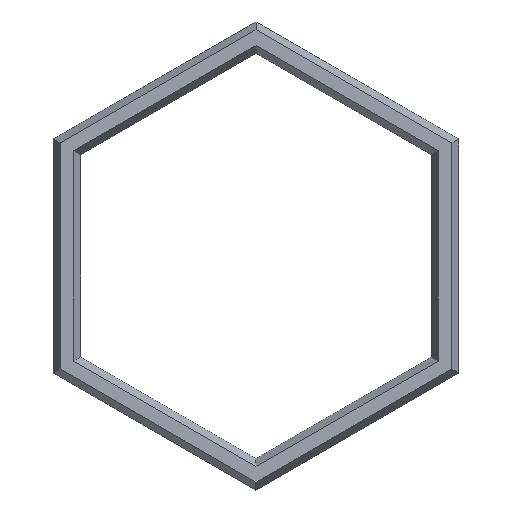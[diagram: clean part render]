
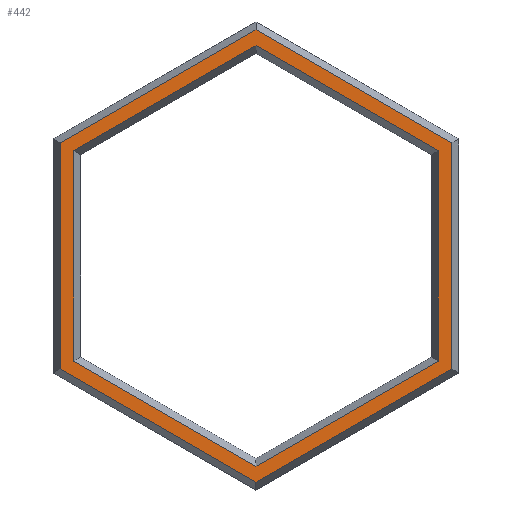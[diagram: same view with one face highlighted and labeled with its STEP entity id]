
A CAD part, top view. The second image highlights one B-rep face of the part: STEP entity #442.
In plain terms, the highlighted planar face has unit normal (0, 0, 1).
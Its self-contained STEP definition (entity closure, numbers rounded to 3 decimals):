
#15=FACE_BOUND('',#53,.T.);
#26=FACE_OUTER_BOUND('',#52,.T.);
#52=EDGE_LOOP('',(#323,#324,#325,#326,#327,#328));
#53=EDGE_LOOP('',(#329,#330,#331,#332,#333,#334));
#71=LINE('',#617,#131);
#75=LINE('',#625,#135);
#78=LINE('',#631,#138);
#81=LINE('',#637,#141);
#85=LINE('',#645,#145);
#88=LINE('',#649,#148);
#96=LINE('',#667,#156);
#97=LINE('',#669,#157);
#98=LINE('',#671,#158);
#99=LINE('',#673,#159);
#100=LINE('',#675,#160);
#101=LINE('',#676,#161);
#131=VECTOR('',#503,10.);
#135=VECTOR('',#509,10.);
#138=VECTOR('',#514,10.);
#141=VECTOR('',#519,10.);
#145=VECTOR('',#525,10.);
#148=VECTOR('',#530,10.);
#156=VECTOR('',#546,10.);
#157=VECTOR('',#547,10.);
#158=VECTOR('',#548,10.);
#159=VECTOR('',#549,10.);
#160=VECTOR('',#550,10.);
#161=VECTOR('',#551,10.);
#191=VERTEX_POINT('',#615);
#192=VERTEX_POINT('',#616);
#195=VERTEX_POINT('',#624);
#197=VERTEX_POINT('',#630);
#199=VERTEX_POINT('',#636);
#202=VERTEX_POINT('',#644);
#207=VERTEX_POINT('',#665);
#208=VERTEX_POINT('',#666);
#209=VERTEX_POINT('',#668);
#210=VERTEX_POINT('',#670);
#211=VERTEX_POINT('',#672);
#212=VERTEX_POINT('',#674);
#227=EDGE_CURVE('',#191,#192,#71,.T.);
#231=EDGE_CURVE('',#192,#195,#75,.T.);
#234=EDGE_CURVE('',#195,#197,#78,.T.);
#237=EDGE_CURVE('',#197,#199,#81,.T.);
#241=EDGE_CURVE('',#199,#202,#85,.T.);
#244=EDGE_CURVE('',#202,#191,#88,.T.);
#252=EDGE_CURVE('',#207,#208,#96,.T.);
#253=EDGE_CURVE('',#209,#207,#97,.T.);
#254=EDGE_CURVE('',#210,#209,#98,.T.);
#255=EDGE_CURVE('',#211,#210,#99,.T.);
#256=EDGE_CURVE('',#212,#211,#100,.T.);
#257=EDGE_CURVE('',#208,#212,#101,.T.);
#323=ORIENTED_EDGE('',*,*,#252,.F.);
#324=ORIENTED_EDGE('',*,*,#253,.F.);
#325=ORIENTED_EDGE('',*,*,#254,.F.);
#326=ORIENTED_EDGE('',*,*,#255,.F.);
#327=ORIENTED_EDGE('',*,*,#256,.F.);
#328=ORIENTED_EDGE('',*,*,#257,.F.);
#329=ORIENTED_EDGE('',*,*,#227,.F.);
#330=ORIENTED_EDGE('',*,*,#244,.F.);
#331=ORIENTED_EDGE('',*,*,#241,.F.);
#332=ORIENTED_EDGE('',*,*,#237,.F.);
#333=ORIENTED_EDGE('',*,*,#234,.F.);
#334=ORIENTED_EDGE('',*,*,#231,.F.);
#416=PLANE('',#482);
#442=ADVANCED_FACE('',(#26,#15),#416,.T.);
#482=AXIS2_PLACEMENT_3D('',#664,#544,#545);
#503=DIRECTION('',(0.866,0.5,0.));
#509=DIRECTION('',(0.,1.,0.));
#514=DIRECTION('',(-0.866,0.5,0.));
#519=DIRECTION('',(-0.866,-0.5,0.));
#525=DIRECTION('',(0.,-1.,0.));
#530=DIRECTION('',(0.866,-0.5,0.));
#544=DIRECTION('center_axis',(0.,0.,1.));
#545=DIRECTION('ref_axis',(1.,0.,0.));
#546=DIRECTION('',(0.866,-0.5,0.));
#547=DIRECTION('',(0.866,0.5,0.));
#548=DIRECTION('',(0.,1.,0.));
#549=DIRECTION('',(-0.866,0.5,0.));
#550=DIRECTION('',(-0.866,-0.5,0.));
#551=DIRECTION('',(0.,-1.,0.));
#615=CARTESIAN_POINT('',(0.,-15.444,5.));
#616=CARTESIAN_POINT('',(13.375,-7.722,5.));
#617=CARTESIAN_POINT('',(9.906,-9.725,5.));
#624=CARTESIAN_POINT('',(13.375,7.722,5.));
#625=CARTESIAN_POINT('',(13.375,3.717,5.));
#630=CARTESIAN_POINT('',(0.,15.444,5.));
#631=CARTESIAN_POINT('',(3.469,13.441,5.));
#636=CARTESIAN_POINT('',(-13.375,7.722,5.));
#637=CARTESIAN_POINT('',(-9.906,9.725,5.));
#644=CARTESIAN_POINT('',(-13.375,-7.722,5.));
#645=CARTESIAN_POINT('',(-13.375,-3.717,5.));
#649=CARTESIAN_POINT('',(-3.469,-13.441,5.));
#664=CARTESIAN_POINT('Origin',(0.,0.,
5.));
#665=CARTESIAN_POINT('',(0.,16.599,5.));
#666=CARTESIAN_POINT('',(14.375,8.299,5.));
#667=CARTESIAN_POINT('',(10.906,10.302,5.));
#668=CARTESIAN_POINT('',(-14.375,8.299,5.));
#669=CARTESIAN_POINT('',(-3.469,14.596,5.));
#670=CARTESIAN_POINT('',(-14.375,-8.299,5.));
#671=CARTESIAN_POINT('',(-14.375,4.294,5.));
#672=CARTESIAN_POINT('',(0.,-16.599,5.));
#673=CARTESIAN_POINT('',(-10.906,-10.302,5.));
#674=CARTESIAN_POINT('',(14.375,-8.299,5.));
#675=CARTESIAN_POINT('',(3.469,-14.596,5.));
#676=CARTESIAN_POINT('',(14.375,-4.294,5.));
